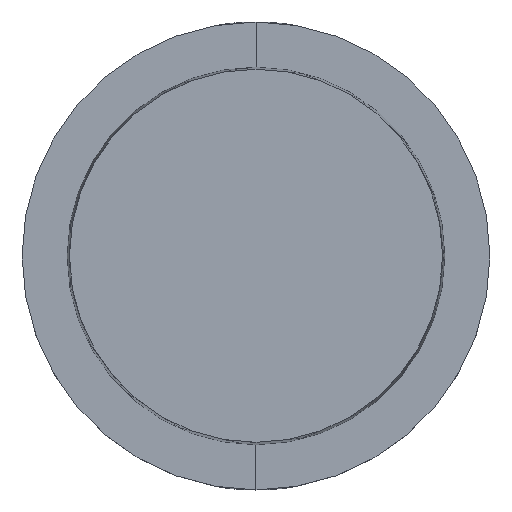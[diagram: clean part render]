
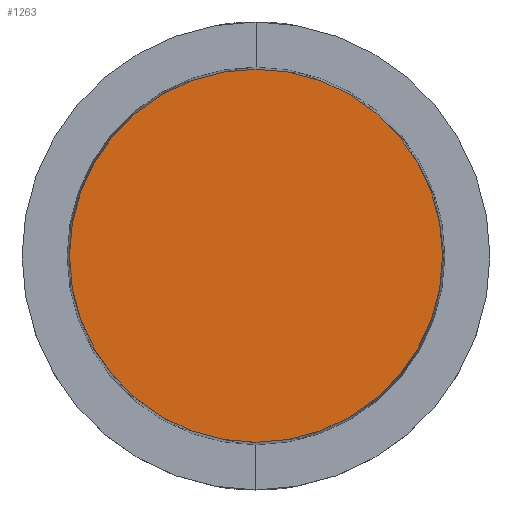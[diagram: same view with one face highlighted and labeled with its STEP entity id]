
A CAD part, top view. The second image highlights one B-rep face of the part: STEP entity #1263.
In plain terms, the highlighted planar face has unit normal (0, 0, 1).
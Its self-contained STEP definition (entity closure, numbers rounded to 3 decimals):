
#1086 = CONICAL_SURFACE('',#1087,12.55,0.021);
#1087 = AXIS2_PLACEMENT_3D('',#1088,#1089,#1090);
#1088 = CARTESIAN_POINT('',(0.,0.,0.));
#1089 = DIRECTION('',(0.,0.,-1.));
#1090 = DIRECTION('',(1.,0.,0.));
#1178 = VERTEX_POINT('',#1179);
#1179 = CARTESIAN_POINT('',(12.4,0.,7.));
#1200 = EDGE_CURVE('',#1178,#1178,#1201,.T.);
#1201 = SURFACE_CURVE('',#1202,(#1207,#1214),.PCURVE_S1.);
#1202 = CIRCLE('',#1203,12.4);
#1203 = AXIS2_PLACEMENT_3D('',#1204,#1205,#1206);
#1204 = CARTESIAN_POINT('',(0.,0.,7.));
#1205 = DIRECTION('',(0.,0.,1.));
#1206 = DIRECTION('',(1.,0.,0.));
#1207 = PCURVE('',#1086,#1208);
#1208 = DEFINITIONAL_REPRESENTATION('',(#1209),#1213);
#1209 = LINE('',#1210,#1211);
#1210 = CARTESIAN_POINT('',(-0.,-7.));
#1211 = VECTOR('',#1212,1.);
#1212 = DIRECTION('',(-1.,-0.));
#1213 = ( GEOMETRIC_REPRESENTATION_CONTEXT(2) 
PARAMETRIC_REPRESENTATION_CONTEXT() REPRESENTATION_CONTEXT('2D SPACE',''
  ) );
#1214 = PCURVE('',#1215,#1220);
#1215 = PLANE('',#1216);
#1216 = AXIS2_PLACEMENT_3D('',#1217,#1218,#1219);
#1217 = CARTESIAN_POINT('',(0.,0.,7.));
#1218 = DIRECTION('',(0.,0.,1.));
#1219 = DIRECTION('',(1.,0.,0.));
#1220 = DEFINITIONAL_REPRESENTATION('',(#1221),#1225);
#1221 = CIRCLE('',#1222,12.4);
#1222 = AXIS2_PLACEMENT_2D('',#1223,#1224);
#1223 = CARTESIAN_POINT('',(0.,0.));
#1224 = DIRECTION('',(1.,0.));
#1225 = ( GEOMETRIC_REPRESENTATION_CONTEXT(2) 
PARAMETRIC_REPRESENTATION_CONTEXT() REPRESENTATION_CONTEXT('2D SPACE',''
  ) );
#1263 = ADVANCED_FACE('',(#1264),#1215,.T.);
#1264 = FACE_BOUND('',#1265,.T.);
#1265 = EDGE_LOOP('',(#1266));
#1266 = ORIENTED_EDGE('',*,*,#1200,.T.);
